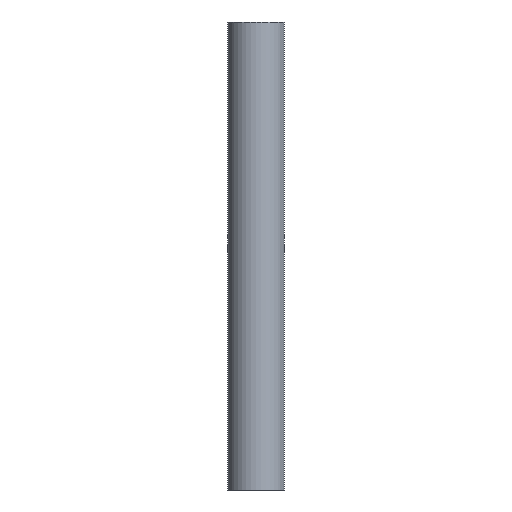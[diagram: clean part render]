
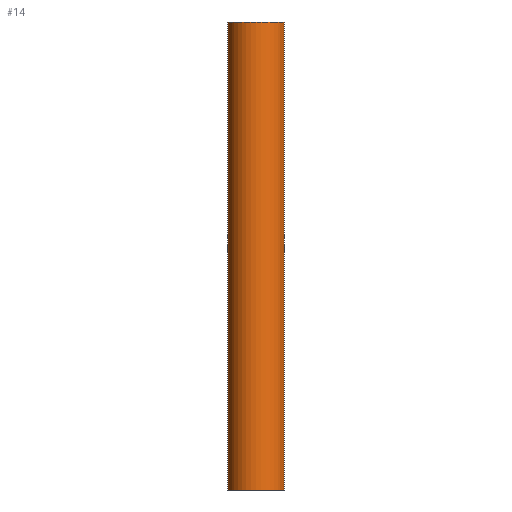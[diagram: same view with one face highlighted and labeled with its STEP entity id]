
A CAD part, front view. The second image highlights one B-rep face of the part: STEP entity #14.
In plain terms, the highlighted cylindrical face has radius 30.15 mm (diameter 60.3 mm), a partial arc.
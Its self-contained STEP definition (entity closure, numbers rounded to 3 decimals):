
#9 = DIRECTION ( 'NONE',  ( 0., 0., 1. ) ) ;
#11 = ORIENTED_EDGE ( 'NONE', *, *, #180, .T. ) ;
#13 = EDGE_CURVE ( 'NONE', #169, #168, #33, .T. ) ;
#14 = ADVANCED_FACE ( 'NONE', ( #96 ), #113, .T. ) ;
#24 = EDGE_CURVE ( 'NONE', #172, #176, #95, .T. ) ;
#26 = ORIENTED_EDGE ( 'NONE', *, *, #24, .T. ) ;
#31 = AXIS2_PLACEMENT_3D ( 'NONE', #37, #9, #39 ) ;
#33 = CIRCLE ( 'NONE', #31, 30.15 ) ;
#37 = CARTESIAN_POINT ( 'NONE',  ( 0., 0., 500. ) ) ;
#39 = DIRECTION ( 'NONE',  ( 1., 0., 0. ) ) ;
#45 = DIRECTION ( 'NONE',  ( 0., 0., -1. ) ) ;
#46 = CARTESIAN_POINT ( 'NONE',  ( 30.15, 0., 500. ) ) ;
#48 = VECTOR ( 'NONE', #45, 1000. ) ;
#55 = LINE ( 'NONE', #46, #48 ) ;
#93 = AXIS2_PLACEMENT_3D ( 'NONE', #98, #118, #97 ) ;
#95 = CIRCLE ( 'NONE', #106, 30.15 ) ;
#96 = FACE_OUTER_BOUND ( 'NONE', #188, .T. ) ;
#97 = DIRECTION ( 'NONE',  ( -1., 0., 0. ) ) ;
#98 = CARTESIAN_POINT ( 'NONE',  ( 0., 0., 500. ) ) ;
#100 = CARTESIAN_POINT ( 'NONE',  ( 0., 0., 0. ) ) ;
#106 = AXIS2_PLACEMENT_3D ( 'NONE', #100, #129, #128 ) ;
#113 = CYLINDRICAL_SURFACE ( 'NONE', #93, 30.15 ) ;
#117 = CARTESIAN_POINT ( 'NONE',  ( -30.15, 0., 0. ) ) ;
#118 = DIRECTION ( 'NONE',  ( 0., 0., -1. ) ) ;
#119 = CARTESIAN_POINT ( 'NONE',  ( -30.15, 0., 500. ) ) ;
#127 = CARTESIAN_POINT ( 'NONE',  ( 30.15, 0., 500. ) ) ;
#128 = DIRECTION ( 'NONE',  ( 1., 0., 0. ) ) ;
#129 = DIRECTION ( 'NONE',  ( 0., 0., 1. ) ) ;
#131 = VECTOR ( 'NONE', #143, 1000. ) ;
#133 = CARTESIAN_POINT ( 'NONE',  ( 30.15, 0., 0. ) ) ;
#140 = LINE ( 'NONE', #144, #131 ) ;
#143 = DIRECTION ( 'NONE',  ( 0., 0., -1. ) ) ;
#144 = CARTESIAN_POINT ( 'NONE',  ( -30.15, 0., 500. ) ) ;
#168 = VERTEX_POINT ( 'NONE', #127 ) ;
#169 = VERTEX_POINT ( 'NONE', #119 ) ;
#172 = VERTEX_POINT ( 'NONE', #117 ) ;
#174 = EDGE_CURVE ( 'NONE', #168, #176, #55, .T. ) ;
#176 = VERTEX_POINT ( 'NONE', #133 ) ;
#180 = EDGE_CURVE ( 'NONE', #169, #172, #140, .T. ) ;
#188 = EDGE_LOOP ( 'NONE', ( #190, #189, #11, #26 ) ) ;
#189 = ORIENTED_EDGE ( 'NONE', *, *, #13, .F. ) ;
#190 = ORIENTED_EDGE ( 'NONE', *, *, #174, .F. ) ;
